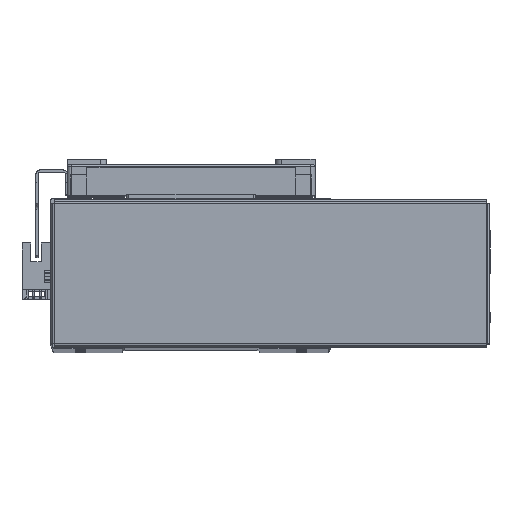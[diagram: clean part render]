
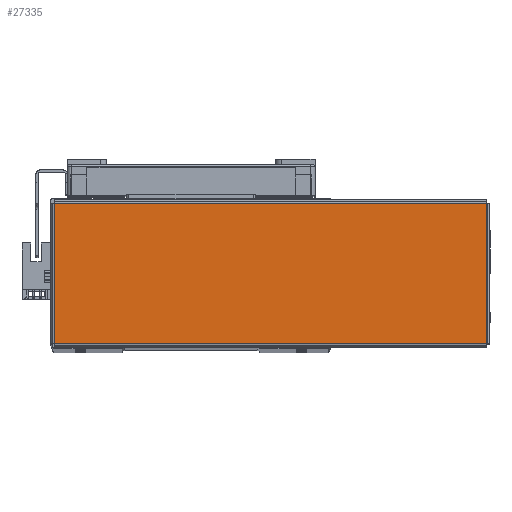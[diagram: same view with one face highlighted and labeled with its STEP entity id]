
A CAD part, top view. The second image highlights one B-rep face of the part: STEP entity #27335.
In plain terms, the highlighted planar face has unit normal (0, 0, 1) as drawn and (0, -1, 0) by its records, which use the part's own axes.
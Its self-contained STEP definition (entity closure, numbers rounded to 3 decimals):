
#2418 = EDGE_LOOP ( 'NONE', ( #8580, #8586, #8589, #8592 ) ) ;
#8203 = EDGE_CURVE ( 'NONE', #61819, #61856, #14327, .T. ) ;
#8284 = DIRECTION ( 'NONE',  ( 1., 0., 0. ) ) ;
#8333 = EDGE_CURVE ( 'NONE', #61785, #61837, #14379, .T. ) ;
#8356 = CARTESIAN_POINT ( 'NONE',  ( -103.793, -1., -33.763 ) ) ;
#8440 = EDGE_CURVE ( 'NONE', #61837, #61819, #14435, .T. ) ;
#8495 = EDGE_CURVE ( 'NONE', #61856, #61785, #14443, .T. ) ;
#8580 = ORIENTED_EDGE ( 'NONE', *, *, #8203, .T. ) ;
#8586 = ORIENTED_EDGE ( 'NONE', *, *, #8495, .T. ) ;
#8589 = ORIENTED_EDGE ( 'NONE', *, *, #8333, .T. ) ;
#8592 = ORIENTED_EDGE ( 'NONE', *, *, #8440, .T. ) ;
#8613 = CARTESIAN_POINT ( 'NONE',  ( 103.763, -1., -33.793 ) ) ;
#8623 = DIRECTION ( 'NONE',  ( 0., 0., 1. ) ) ;
#8772 = CARTESIAN_POINT ( 'NONE',  ( -103.763, -1., 33.793 ) ) ;
#8929 = DIRECTION ( 'NONE',  ( 0., 0., -1. ) ) ;
#14327 = LINE ( 'NONE', #20785, #14336 ) ;
#14336 = VECTOR ( 'NONE', #20762, 1000. ) ;
#14350 = VECTOR ( 'NONE', #8284, 1000. ) ;
#14379 = LINE ( 'NONE', #8356, #14350 ) ;
#14425 = VECTOR ( 'NONE', #8623, 1000. ) ;
#14435 = LINE ( 'NONE', #8613, #14425 ) ;
#14443 = LINE ( 'NONE', #8772, #14463 ) ;
#14463 = VECTOR ( 'NONE', #8929, 1000. ) ;
#20762 = DIRECTION ( 'NONE',  ( -1., 0., 0. ) ) ;
#20785 = CARTESIAN_POINT ( 'NONE',  ( 103.793, -1., 33.763 ) ) ;
#27335 = ADVANCED_FACE ( 'NONE', ( #49945 ), #51151, .F. ) ;
#35913 = AXIS2_PLACEMENT_3D ( 'NONE', #51106, #51154, #51112 ) ;
#49945 = FACE_OUTER_BOUND ( 'NONE', #2418, .T. ) ;
#51106 = CARTESIAN_POINT ( 'NONE',  ( 0., -1., 0. ) ) ;
#51112 = DIRECTION ( 'NONE',  ( 0., 0., 1. ) ) ;
#51151 = PLANE ( 'NONE',  #35913 ) ;
#51154 = DIRECTION ( 'NONE',  ( 0., 1., 0. ) ) ;
#59615 = CARTESIAN_POINT ( 'NONE',  ( -103.763, -1., -33.763 ) ) ;
#59643 = CARTESIAN_POINT ( 'NONE',  ( 103.763, -1., -33.763 ) ) ;
#59676 = CARTESIAN_POINT ( 'NONE',  ( -103.763, -1., 33.763 ) ) ;
#59692 = CARTESIAN_POINT ( 'NONE',  ( 103.763, -1., 33.763 ) ) ;
#61785 = VERTEX_POINT ( 'NONE', #59615 ) ;
#61819 = VERTEX_POINT ( 'NONE', #59692 ) ;
#61837 = VERTEX_POINT ( 'NONE', #59643 ) ;
#61856 = VERTEX_POINT ( 'NONE', #59676 ) ;
